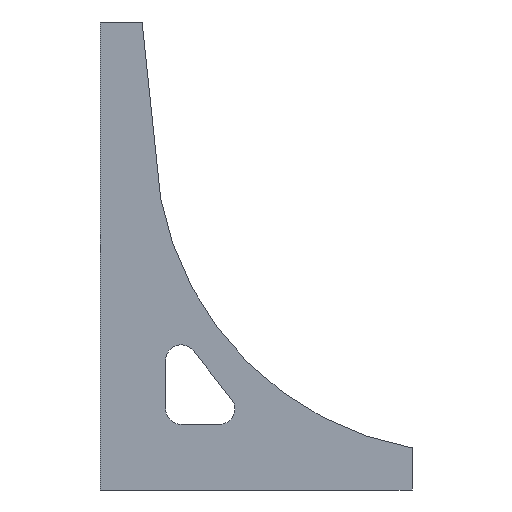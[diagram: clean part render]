
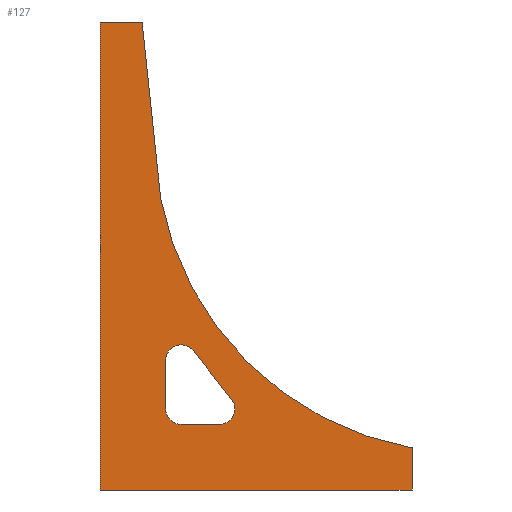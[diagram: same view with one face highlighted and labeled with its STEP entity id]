
A CAD part, front view. The second image highlights one B-rep face of the part: STEP entity #127.
In plain terms, the highlighted planar face has unit normal (0, -1, 0).
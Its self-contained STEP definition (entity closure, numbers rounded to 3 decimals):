
#127=ADVANCED_FACE('',(#336,#337),#338,.T.);
#336=FACE_BOUND('',#640,.T.);
#337=FACE_OUTER_BOUND('',#641,.T.);
#338=PLANE('',#642);
#640=EDGE_LOOP('',(#968,#969,#970,#971,#972,#973,#974));
#641=EDGE_LOOP('',(#975,#976,#977,#978,#979,#980));
#642=AXIS2_PLACEMENT_3D('',#981,#982,#983);
#968=ORIENTED_EDGE('',*,*,#1758,.T.);
#969=ORIENTED_EDGE('',*,*,#1759,.T.);
#970=ORIENTED_EDGE('',*,*,#1760,.T.);
#971=ORIENTED_EDGE('',*,*,#1761,.T.);
#972=ORIENTED_EDGE('',*,*,#1762,.T.);
#973=ORIENTED_EDGE('',*,*,#1763,.T.);
#974=ORIENTED_EDGE('',*,*,#1764,.T.);
#975=ORIENTED_EDGE('',*,*,#1765,.T.);
#976=ORIENTED_EDGE('',*,*,#1766,.T.);
#977=ORIENTED_EDGE('',*,*,#1767,.T.);
#978=ORIENTED_EDGE('',*,*,#1768,.T.);
#979=ORIENTED_EDGE('',*,*,#1769,.F.);
#980=ORIENTED_EDGE('',*,*,#1770,.T.);
#981=CARTESIAN_POINT('',(-60.0,170.0,0.0));
#982=DIRECTION('',(0.0,-1.0,0.0));
#983=DIRECTION('',(0.0,0.0,-1.0));
#1758=EDGE_CURVE('',#2096,#2097,#2098,.T.);
#1759=EDGE_CURVE('',#2097,#2099,#2100,.T.);
#1760=EDGE_CURVE('',#2099,#2101,#2102,.T.);
#1761=EDGE_CURVE('',#2101,#2103,#2104,.T.);
#1762=EDGE_CURVE('',#2103,#2105,#2106,.T.);
#1763=EDGE_CURVE('',#2105,#2107,#2108,.T.);
#1764=EDGE_CURVE('',#2107,#2096,#2109,.T.);
#1765=EDGE_CURVE('',#2110,#2111,#2112,.T.);
#1766=EDGE_CURVE('',#2111,#2113,#2114,.T.);
#1767=EDGE_CURVE('',#2113,#2115,#2116,.T.);
#1768=EDGE_CURVE('',#2115,#2117,#2118,.T.);
#1769=EDGE_CURVE('',#2119,#2117,#2120,.T.);
#1770=EDGE_CURVE('',#2119,#2110,#2121,.T.);
#2096=VERTEX_POINT('',#2553);
#2097=VERTEX_POINT('',#2554);
#2098=LINE('',#2555,#2556);
#2099=VERTEX_POINT('',#2557);
#2100=CIRCLE('',#2558,10.0);
#2101=VERTEX_POINT('',#2559);
#2102=CIRCLE('',#2560,10.0);
#2103=VERTEX_POINT('',#2561);
#2104=LINE('',#2562,#2563);
#2105=VERTEX_POINT('',#2564);
#2106=CIRCLE('',#2565,10.0);
#2107=VERTEX_POINT('',#2566);
#2108=LINE('',#2567,#2568);
#2109=CIRCLE('',#2569,10.0);
#2110=VERTEX_POINT('',#2570);
#2111=VERTEX_POINT('',#2571);
#2112=LINE('',#2572,#2573);
#2113=VERTEX_POINT('',#2574);
#2114=LINE('',#2575,#2576);
#2115=VERTEX_POINT('',#2577);
#2116=CIRCLE('',#2578,200.0);
#2117=VERTEX_POINT('',#2579);
#2118=LINE('',#2580,#2581);
#2119=VERTEX_POINT('',#2582);
#2120=LINE('',#2583,#2584);
#2121=LINE('',#2585,#2586);
#2553=CARTESIAN_POINT('',(-0.151,170.0,89.187));
#2554=CARTESIAN_POINT('',(24.315,170.0,58.196));
#2555=CARTESIAN_POINT('',(-0.528,170.0,89.663));
#2556=VECTOR('',#3099,1.0);
#2557=CARTESIAN_POINT('',(26.466,170.0,52.0));
#2558=AXIS2_PLACEMENT_3D('',#3100,#3101,#3102);
#2559=CARTESIAN_POINT('',(16.466,170.0,42.0));
#2560=AXIS2_PLACEMENT_3D('',#3103,#3104,#3105);
#2561=CARTESIAN_POINT('',(-8.0,170.0,42.0));
#2562=CARTESIAN_POINT('',(7.071,170.0,42.0));
#2563=VECTOR('',#3106,1.0);
#2564=CARTESIAN_POINT('',(-18.0,170.0,52.0));
#2565=AXIS2_PLACEMENT_3D('',#3107,#3108,#3109);
#2566=CARTESIAN_POINT('',(-18.0,170.0,82.99));
#2567=CARTESIAN_POINT('',(-18.0,170.0,95.662));
#2568=VECTOR('',#3110,1.0);
#2569=AXIS2_PLACEMENT_3D('',#3111,#3112,#3113);
#2570=CARTESIAN_POINT('',(-60.0,170.0,0.0));
#2571=CARTESIAN_POINT('',(140.0,170.0,0.0));
#2572=CARTESIAN_POINT('',(-60.0,170.0,0.0));
#2573=VECTOR('',#3114,1.0);
#2574=CARTESIAN_POINT('',(140.0,170.0,27.0));
#2575=CARTESIAN_POINT('',(140.0,170.0,0.0));
#2576=VECTOR('',#3115,1.0);
#2577=CARTESIAN_POINT('',(-21.13,170.0,187.062));
#2578=AXIS2_PLACEMENT_3D('',#3116,#3117,#3118);
#2579=CARTESIAN_POINT('',(-33.0,170.0,300.0));
#2580=CARTESIAN_POINT('',(-21.13,170.0,187.062));
#2581=VECTOR('',#3119,1.0);
#2582=CARTESIAN_POINT('',(-60.0,170.0,300.0));
#2583=CARTESIAN_POINT('',(-60.0,170.0,300.0));
#2584=VECTOR('',#3120,1.0);
#2585=CARTESIAN_POINT('',(-60.0,170.0,300.0));
#2586=VECTOR('',#3121,1.0);
#3099=DIRECTION('',(0.62,0.0,-0.785));
#3100=CARTESIAN_POINT('',(16.466,170.0,52.0));
#3101=DIRECTION('',(0.0,1.0,0.0));
#3102=DIRECTION('',(-1.0,0.0,0.0));
#3103=CARTESIAN_POINT('',(16.466,170.0,52.0));
#3104=DIRECTION('',(0.0,1.0,0.0));
#3105=DIRECTION('',(-1.0,0.0,0.0));
#3106=DIRECTION('',(-1.0,0.0,0.));
#3107=CARTESIAN_POINT('',(-8.0,170.0,52.0));
#3108=DIRECTION('',(0.0,1.0,0.0));
#3109=DIRECTION('',(-1.0,0.0,0.0));
#3110=DIRECTION('',(0.0,0.0,1.0));
#3111=CARTESIAN_POINT('',(-8.0,170.0,82.99));
#3112=DIRECTION('',(0.0,1.0,0.0));
#3113=DIRECTION('',(-1.0,0.0,0.0));
#3114=DIRECTION('',(1.0,0.0,0.0));
#3115=DIRECTION('',(0.0,0.0,1.0));
#3116=CARTESIAN_POINT('',(175.461,170.0,223.831));
#3117=DIRECTION('',(0.0,1.0,0.0));
#3118=DIRECTION('',(-1.0,0.0,0.0));
#3119=DIRECTION('',(-0.105,0.0,0.995));
#3120=DIRECTION('',(1.0,0.0,0.0));
#3121=DIRECTION('',(0.0,0.0,-1.0));
